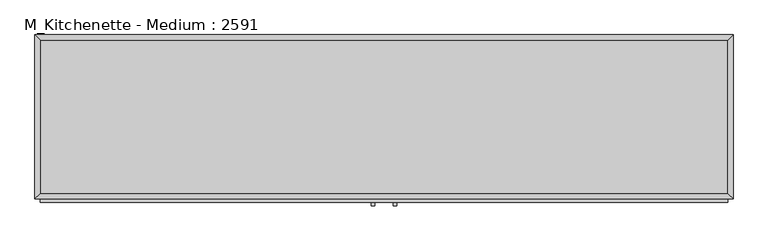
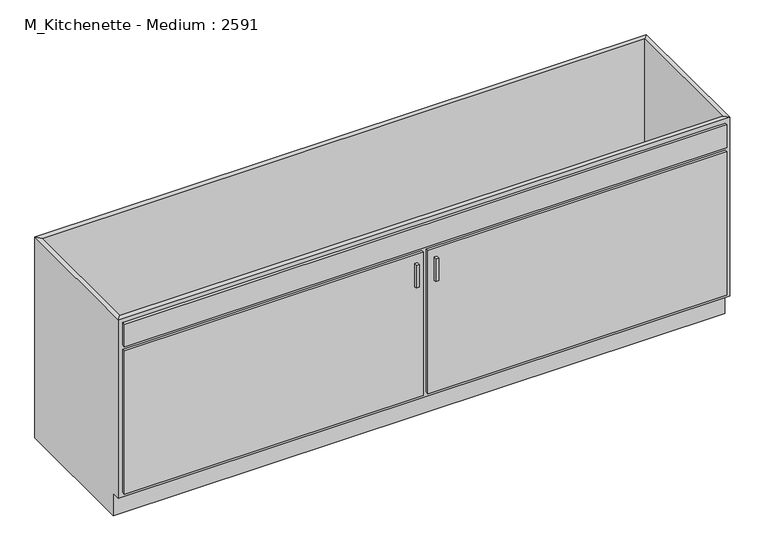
"""IFC4 building model written with IfcOpenShell, lengths in millimetres: proxy geometry, M_Kitchenette - Medium : 2591."""

from ifc_helpers import new_model, si_unit, frame, origin, place, context, project, spatial, polyline, outline, extrude, faceted_brep, source, transform, mapped, element, save


def m_kitchenette_medium_2591_ce898a11(model_context):
    return source(origin(), model_context, "Body", "SolidModel", [
        faceted_brep([(1295.1877049, -590.95, 900.0), (1295.1877049, -590.95, 100.0), (-1257.7122951, -590.95, 100.0), (-1257.7122951, -590.95, 900.0), (-1276.7622951, -610.0, 900.0), (1314.2377049, -610.0, 900.0), (-1276.7622951, -610.0, 100.0), (1314.2377049, -610.0, 100.0), (-1257.7122951, -575.0, 100.0), (-1257.7122951, -19.05, 100.0), (-1257.7122951, -19.05, 900.0), (-1276.7622951, 0.0, 900.0), (-1276.7622951, 0.0, 0.0), (-1276.7622951, -575.0, 0.0), (-1276.7622951, -575.0, 100.0), (1295.1877049, -19.05, 100.0), (1295.1877049, -19.05, 900.0), (1314.2377049, 0.0, 900.0), (1314.2377049, 0.0, 0.0), (1295.1877049, -575.0, 100.0), (1314.2377049, -575.0, 100.0), (1314.2377049, -575.0, 0.0)], [[[0, 1, 2, 3]], [[0, 3, 4, 5]], [[5, 4, 6, 7]], [[2, 1, 7, 6]], [[3, 2, 8, 9, 10]], [[4, 3, 10, 11]], [[6, 4, 11, 12, 13, 14]], [[2, 6, 14, 8]], [[10, 9, 15, 16]], [[11, 10, 16, 17]], [[12, 11, 17, 18]], [[1, 0, 16, 15, 19]], [[0, 5, 17, 16]], [[5, 7, 20, 21, 18, 17]], [[7, 1, 19, 20]], [[8, 19, 15, 9]], [[18, 21, 13, 12]], [[13, 21, 20, 19, 8, 14]]]),
        extrude(outline(polyline([(-16.1872951, -635.4), (-28.8872951, -635.4), (-28.8872951, -622.7), (-16.1872951, -622.7), (-16.1872951, -635.4)])), frame((0.0, 0.0, 620.6), z_axis=(0.0, 0.0, 1.0), x_axis=(1.0, 0.0, 0.0)), (0.0, 0.0, 1.0), 101.6),
        extrude(outline(polyline([(66.3627049, -635.4), (53.6627049, -635.4), (53.6627049, -622.7), (66.3627049, -622.7), (66.3627049, -635.4)])), frame((0.0, 0.0, 620.6), z_axis=(0.0, 0.0, 1.0), x_axis=(1.0, 0.0, 0.0)), (0.0, 0.0, 1.0), 101.6),
        extrude(outline(polyline([(1295.1877049, -19.05), (1295.1877049, -590.95), (-1257.7122951, -590.95), (-1257.7122951, -19.05), (1295.1877049, -19.05)])), frame((0.0, 0.0, 100.0), z_axis=(0.0, 0.0, 1.0), x_axis=(1.0, 0.0, 0.0)), (0.0, 0.0, 1.0), 19.05),
        extrude(outline(polyline([(9.2127049, -622.7), (-1257.7122951, -622.7), (-1257.7122951, -610.0), (9.2127049, -610.0), (9.2127049, -622.7)])), frame((0.0, 0.0, 119.05), z_axis=(0.0, 0.0, 1.0), x_axis=(1.0, 0.0, 0.0)), (0.0, 0.0, 1.0), 641.25),
        extrude(outline(polyline([(1295.1877049, -622.7), (28.2627049, -622.7), (28.2627049, -610.0), (1295.1877049, -610.0), (1295.1877049, -622.7)])), frame((0.0, 0.0, 119.05), z_axis=(0.0, 0.0, 1.0), x_axis=(1.0, 0.0, 0.0)), (0.0, 0.0, 1.0), 641.25),
        extrude(outline(polyline([(1295.1877049, -622.7), (-1257.7122951, -622.7), (-1257.7122951, -610.0), (1295.1877049, -610.0), (1295.1877049, -622.7)])), frame((0.0, 0.0, 779.35), z_axis=(0.0, 0.0, 1.0), x_axis=(1.0, 0.0, 0.0)), (0.0, 0.0, 1.0), 101.6),
    ])


if __name__ == "__main__":
    model = new_model("IFC4")
    model_context = context("Model", 3, world=origin())
    ifc_project = project(units=[si_unit("LENGTHUNIT", "METRE", prefix="MILLI")], contexts=[model_context])
    site = spatial("IfcSite", under=ifc_project)
    building = spatial("IfcBuilding", under=site)
    placement = place(None, origin())
    m_kitchenette_medium_2591_shape = m_kitchenette_medium_2591_ce898a11(model_context)
    element("IfcBuildingElementProxy", 1, Name="M_Kitchenette - Medium : 2591", ObjectType="M_Kitchenette - Medium : 2591", at=placement, inside=building, context=model_context, shape_type="MappedRepresentation", body=[
        mapped(m_kitchenette_medium_2591_shape, transform((0.0, 0.0, 0.0), x_axis=(1.0, 0.0, 0.0), y_axis=(0.0, 1.0, 0.0), z_axis=(0.0, 0.0, 1.0))),
    ])
    save(model, "model.ifc")
